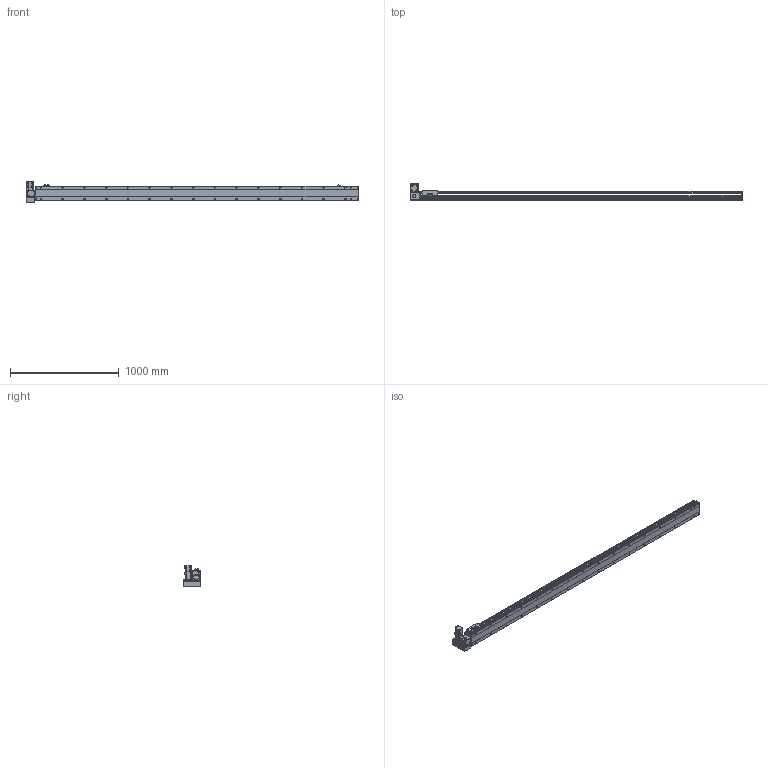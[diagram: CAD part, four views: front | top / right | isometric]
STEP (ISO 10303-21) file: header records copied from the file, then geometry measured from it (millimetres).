
FILE_DESCRIPTION(/* description */ ('STEP AP214'),/* implementation_level */ '2;1');
FILE_NAME(/* name */ 'PBS140S-P40-S2700-LU-T40-C1-N(0)',/* time_stamp */ '2022-06-09T02:36:51+02:00',/* author */ ('License CC BY-ND 4.0'),/* organization */ ('CADENAS'),/* preprocessor_version */ 'ST-DEVELOPER v18.102',/* originating_system */ 'PARTsolutions',/* authorisation */ ' ');
FILE_SCHEMA (('AUTOMOTIVE_DESIGN {1 0 10303 214 3 1 1}'));
Length unit declared in the file: millimetre
Products named in the file (7): PBS140S-P40-S2700-LU-T40-C1-N(0); PBS140S_sensor; PBS140S_plant; PBS140S_sliser; T40-p1; PBS140ST-LU_motors; PBS140S-S2700()_body
Assembly tree (8 placements, depth 2):
  PBS140S-P40-S2700-LU-T40-C1-N(0)
    PBS140S_sensor  x3
    PBS140S_plant
    PBS140S_sliser
    T40-p1
    PBS140ST-LU_motors
    PBS140S-S2700()_body
Bounding box: 3054 x 162.5 x 189.7 mm (x, y, z)
Volume: 14779102.6 mm3; surface area: 2486560.8 mm2
Topology: 8 solids, 8 shells, 1227 faces, 3231 edges, 2113 vertices
Faces by surface type: plane 750, cylinder 409, cone 58, sphere 8, torus 2
Full cylindrical faces by diameter (mm): 3.242 x4, 4 x2, 4.134 x4, 4.4 x8, 4.5 x2, 4.8 x4, 4.917 x40, 5.5 x7, 6 x2, 7 x34, 7.5 x8, 8 x12, 8.5 x4, 10.5 x32, 14 x1, 30 x2, 50 x2
Entity records: 35160 total; most frequent: CARTESIAN_POINT 6712, DIRECTION 5908, ORIENTED_EDGE 5542, EDGE_CURVE 2771, AXIS2_PLACEMENT_3D 2099, VERTEX_POINT 1945, LINE 1710, VECTOR 1710
